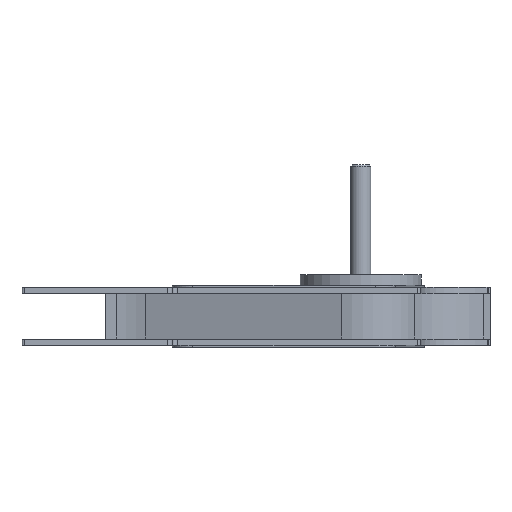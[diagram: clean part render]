
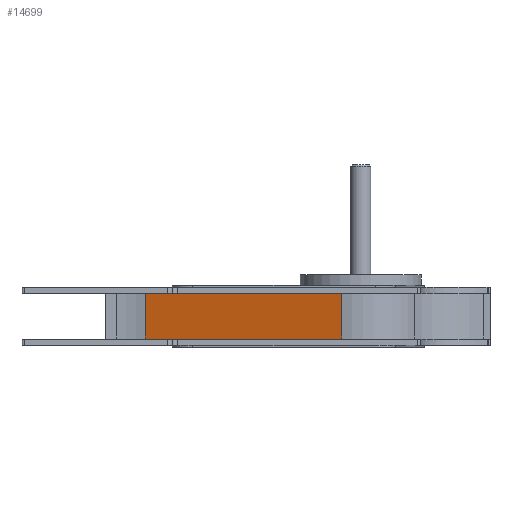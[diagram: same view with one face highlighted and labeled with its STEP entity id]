
A CAD part, front view. The second image highlights one B-rep face of the part: STEP entity #14699.
In plain terms, the highlighted planar face has unit normal (-0.304, -0.953, 0).
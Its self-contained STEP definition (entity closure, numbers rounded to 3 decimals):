
#57 = LINE ( 'NONE', #14378, #9589 ) ;
#910 = VERTEX_POINT ( 'NONE', #15487 ) ;
#1400 = CARTESIAN_POINT ( 'NONE',  ( -341.141, -37.401, 22.5 ) ) ;
#1402 = VECTOR ( 'NONE', #15787, 1000. ) ;
#1478 = EDGE_CURVE ( 'NONE', #5235, #910, #8989, .T. ) ;
#1578 = DIRECTION ( 'NONE',  ( -0.304, -0.953, 0. ) ) ;
#1708 = LINE ( 'NONE', #15908, #6760 ) ;
#2753 = DIRECTION ( 'NONE',  ( 0.953, -0.304, 0. ) ) ;
#3527 = AXIS2_PLACEMENT_3D ( 'NONE', #5347, #1578, #2753 ) ;
#5235 = VERTEX_POINT ( 'NONE', #10081 ) ;
#5347 = CARTESIAN_POINT ( 'NONE',  ( -341.141, -37.401, -391.649 ) ) ;
#5562 = ORIENTED_EDGE ( 'NONE', *, *, #11343, .T. ) ;
#5896 = ORIENTED_EDGE ( 'NONE', *, *, #1478, .T. ) ;
#6091 = VERTEX_POINT ( 'NONE', #1400 ) ;
#6291 = EDGE_CURVE ( 'NONE', #11261, #6091, #11049, .T. ) ;
#6760 = VECTOR ( 'NONE', #10746, 1000. ) ;
#7091 = CARTESIAN_POINT ( 'NONE',  ( -146.393, -99.538, -391.649 ) ) ;
#8363 = ORIENTED_EDGE ( 'NONE', *, *, #6291, .F. ) ;
#8989 = LINE ( 'NONE', #7091, #1402 ) ;
#9367 = DIRECTION ( 'NONE',  ( 0.953, -0.304, 0. ) ) ;
#9526 = EDGE_CURVE ( 'NONE', #6091, #910, #1708, .T. ) ;
#9589 = VECTOR ( 'NONE', #9367, 1000. ) ;
#9982 = CARTESIAN_POINT ( 'NONE',  ( -341.141, -37.401, -22.5 ) ) ;
#10081 = CARTESIAN_POINT ( 'NONE',  ( -146.393, -99.538, -22.5 ) ) ;
#10746 = DIRECTION ( 'NONE',  ( 0.953, -0.304, 0. ) ) ;
#11049 = LINE ( 'NONE', #11621, #14946 ) ;
#11261 = VERTEX_POINT ( 'NONE', #9982 ) ;
#11331 = FACE_OUTER_BOUND ( 'NONE', #13009, .T. ) ;
#11343 = EDGE_CURVE ( 'NONE', #11261, #5235, #57, .T. ) ;
#11550 = ORIENTED_EDGE ( 'NONE', *, *, #9526, .F. ) ;
#11621 = CARTESIAN_POINT ( 'NONE',  ( -341.141, -37.401, -391.649 ) ) ;
#13009 = EDGE_LOOP ( 'NONE', ( #8363, #5562, #5896, #11550 ) ) ;
#13917 = PLANE ( 'NONE',  #3527 ) ;
#14378 = CARTESIAN_POINT ( 'NONE',  ( -341.141, -37.401, -22.5 ) ) ;
#14699 = ADVANCED_FACE ( 'NONE', ( #11331 ), #13917, .T. ) ;
#14946 = VECTOR ( 'NONE', #15545, 1000. ) ;
#15487 = CARTESIAN_POINT ( 'NONE',  ( -146.393, -99.538, 22.5 ) ) ;
#15545 = DIRECTION ( 'NONE',  ( 0., 0., 1. ) ) ;
#15787 = DIRECTION ( 'NONE',  ( 0., 0., 1. ) ) ;
#15908 = CARTESIAN_POINT ( 'NONE',  ( -341.141, -37.401, 22.5 ) ) ;
